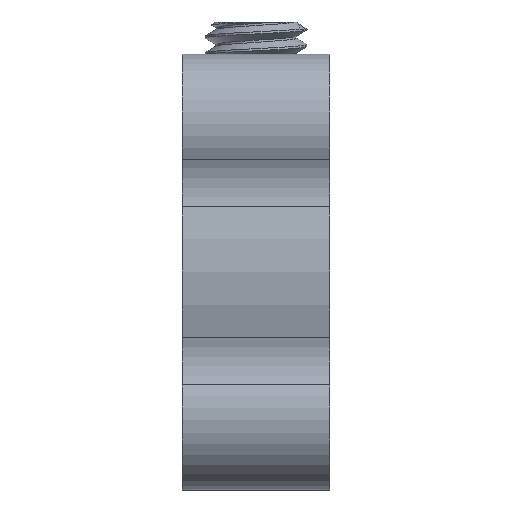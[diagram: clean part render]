
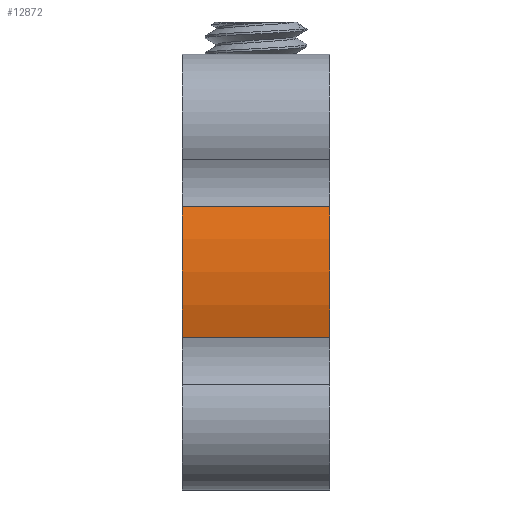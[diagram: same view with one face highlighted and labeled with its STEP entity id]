
A CAD part, left-side view. The second image highlights one B-rep face of the part: STEP entity #12872.
In plain terms, the highlighted cylindrical face has radius 10.16 mm (diameter 20.32 mm), a partial arc.
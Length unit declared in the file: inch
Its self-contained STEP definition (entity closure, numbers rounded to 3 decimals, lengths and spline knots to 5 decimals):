
#313 = CARTESIAN_POINT ( 'NONE',  ( 0., 0.375, 0. ) ) ;
#551 = VERTEX_POINT ( 'NONE', #4665 ) ;
#1138 = LINE ( 'NONE', #6970, #5055 ) ;
#2147 = AXIS2_PLACEMENT_3D ( 'NONE', #313, #11266, #16708 ) ;
#2317 = CARTESIAN_POINT ( 'NONE',  ( 0., 0.375, 0. ) ) ;
#2382 = DIRECTION ( 'NONE',  ( 0., -1., 0. ) ) ;
#3124 = CIRCLE ( 'NONE', #2147, 0.4 ) ;
#3300 = EDGE_CURVE ( 'NONE', #12773, #551, #1138, .T. ) ;
#3312 = ORIENTED_EDGE ( 'NONE', *, *, #4028, .T. ) ;
#4028 = EDGE_CURVE ( 'NONE', #4597, #8922, #6581, .T. ) ;
#4597 = VERTEX_POINT ( 'NONE', #10307 ) ;
#4665 = CARTESIAN_POINT ( 'NONE',  ( -0.38128, 0.375, 0.12095 ) ) ;
#5055 = VECTOR ( 'NONE', #6733, 39.37008 ) ;
#5690 = VECTOR ( 'NONE', #9599, 39.37008 ) ;
#6581 = LINE ( 'NONE', #6882, #5690 ) ;
#6619 = CIRCLE ( 'NONE', #7616, 0.4 ) ;
#6733 = DIRECTION ( 'NONE',  ( 0., 1., 0. ) ) ;
#6882 = CARTESIAN_POINT ( 'NONE',  ( -0.38128, 0.375, -0.12095 ) ) ;
#6970 = CARTESIAN_POINT ( 'NONE',  ( -0.38128, 0.375, 0.12095 ) ) ;
#7552 = EDGE_CURVE ( 'NONE', #4597, #551, #3124, .T. ) ;
#7616 = AXIS2_PLACEMENT_3D ( 'NONE', #14678, #10518, #11687 ) ;
#8038 = AXIS2_PLACEMENT_3D ( 'NONE', #2317, #2382, #10529 ) ;
#8403 = EDGE_LOOP ( 'NONE', ( #10385, #14103, #8467, #3312 ) ) ;
#8467 = ORIENTED_EDGE ( 'NONE', *, *, #7552, .F. ) ;
#8532 = EDGE_CURVE ( 'NONE', #8922, #12773, #6619, .T. ) ;
#8922 = VERTEX_POINT ( 'NONE', #14654 ) ;
#9599 = DIRECTION ( 'NONE',  ( 0., -1., 0. ) ) ;
#10307 = CARTESIAN_POINT ( 'NONE',  ( -0.38128, 0.375, -0.12095 ) ) ;
#10385 = ORIENTED_EDGE ( 'NONE', *, *, #8532, .T. ) ;
#10518 = DIRECTION ( 'NONE',  ( 0., 1., 0. ) ) ;
#10529 = DIRECTION ( 'NONE',  ( 0., 0., -1. ) ) ;
#11266 = DIRECTION ( 'NONE',  ( 0., 1., 0. ) ) ;
#11687 = DIRECTION ( 'NONE',  ( 0., 0., 1. ) ) ;
#12773 = VERTEX_POINT ( 'NONE', #13386 ) ;
#12868 = CYLINDRICAL_SURFACE ( 'NONE', #8038, 0.4 ) ;
#12872 = ADVANCED_FACE ( 'NONE', ( #13319 ), #12868, .T. ) ;
#13319 = FACE_OUTER_BOUND ( 'NONE', #8403, .T. ) ;
#13386 = CARTESIAN_POINT ( 'NONE',  ( -0.38128, 0.1, 0.12095 ) ) ;
#14103 = ORIENTED_EDGE ( 'NONE', *, *, #3300, .T. ) ;
#14654 = CARTESIAN_POINT ( 'NONE',  ( -0.38128, 0.1, -0.12095 ) ) ;
#14678 = CARTESIAN_POINT ( 'NONE',  ( 0., 0.1, 0. ) ) ;
#16708 = DIRECTION ( 'NONE',  ( 0., 0., 1. ) ) ;
